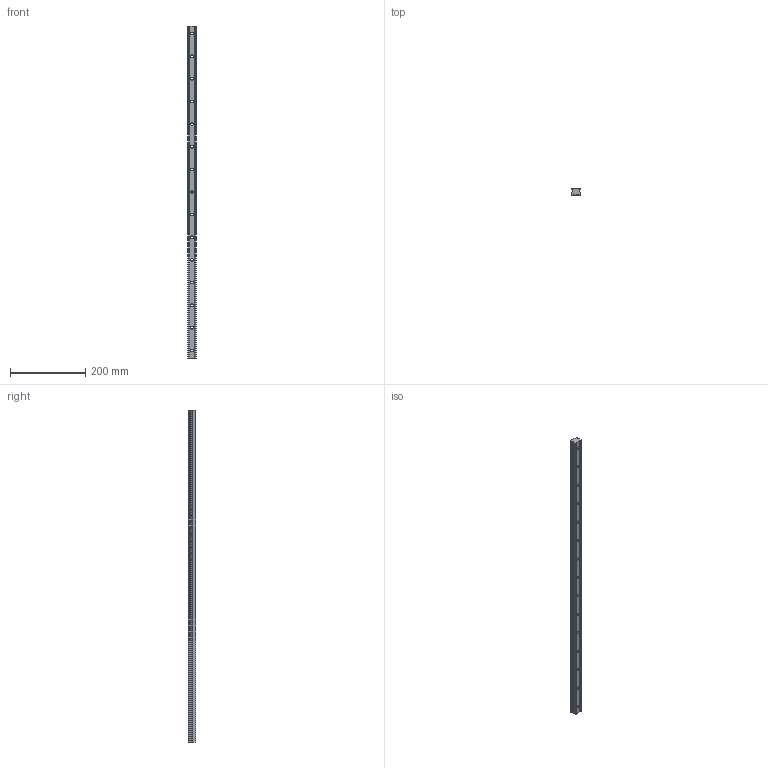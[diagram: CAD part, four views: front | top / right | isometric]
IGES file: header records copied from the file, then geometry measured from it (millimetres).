
Start section: SolidWorks IGES file using analytic representation for surfaces
Global section: file name: C:\Users\IanO\Desktop\L1016_v2\L1016.BL25_v2\L1016.BL25_v2_20160611_IGES\L1016.BL25-0880.igs; native system: SolidWorks 2017; preprocessor: SolidWorks 2017; author: IanO; date: 190612.130608; units: millimetre
Bounding box: 23 x 19.2 x 880 mm (x, y, z)
Surface area: 83909.4 mm2 (no closed solid volume)
Topology: 0 solids, 0 shells, 101 faces, 2328 edges, 2328 vertices
Faces by surface type: revolution 64, bspline 37
